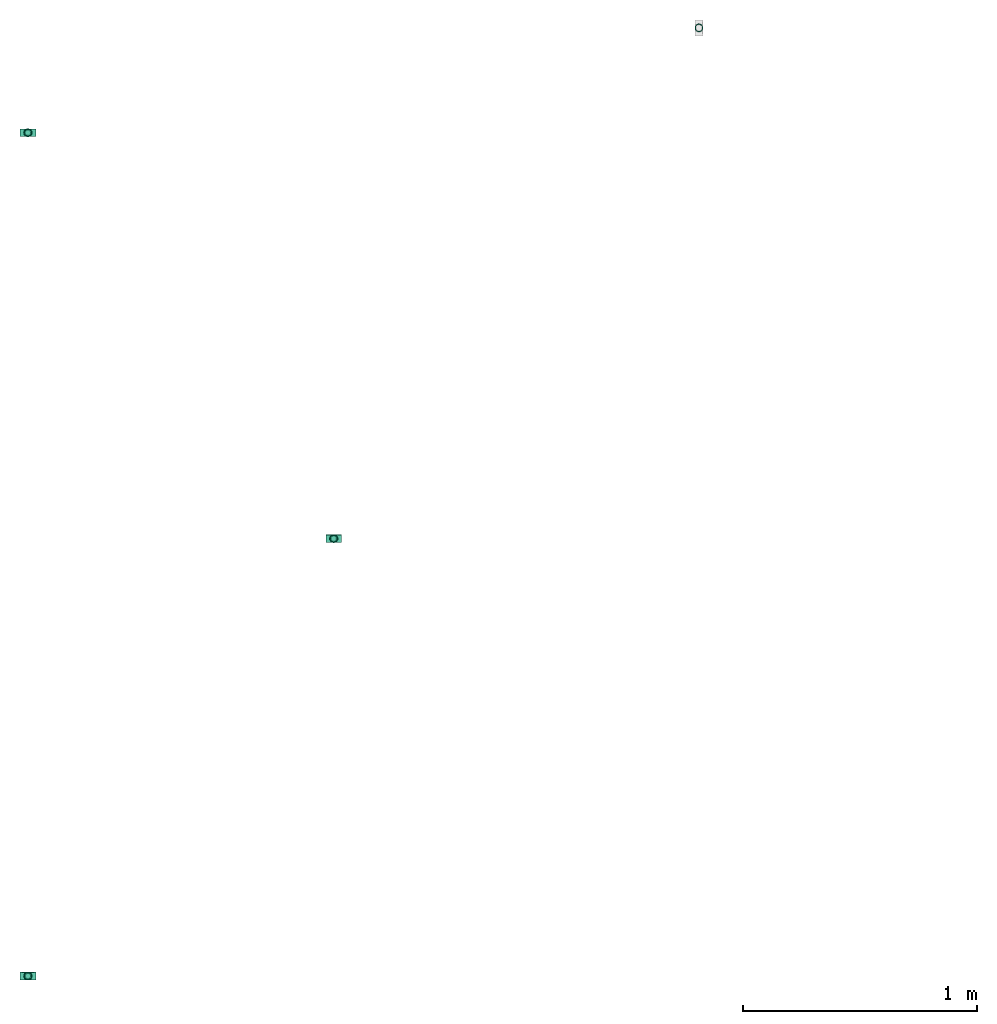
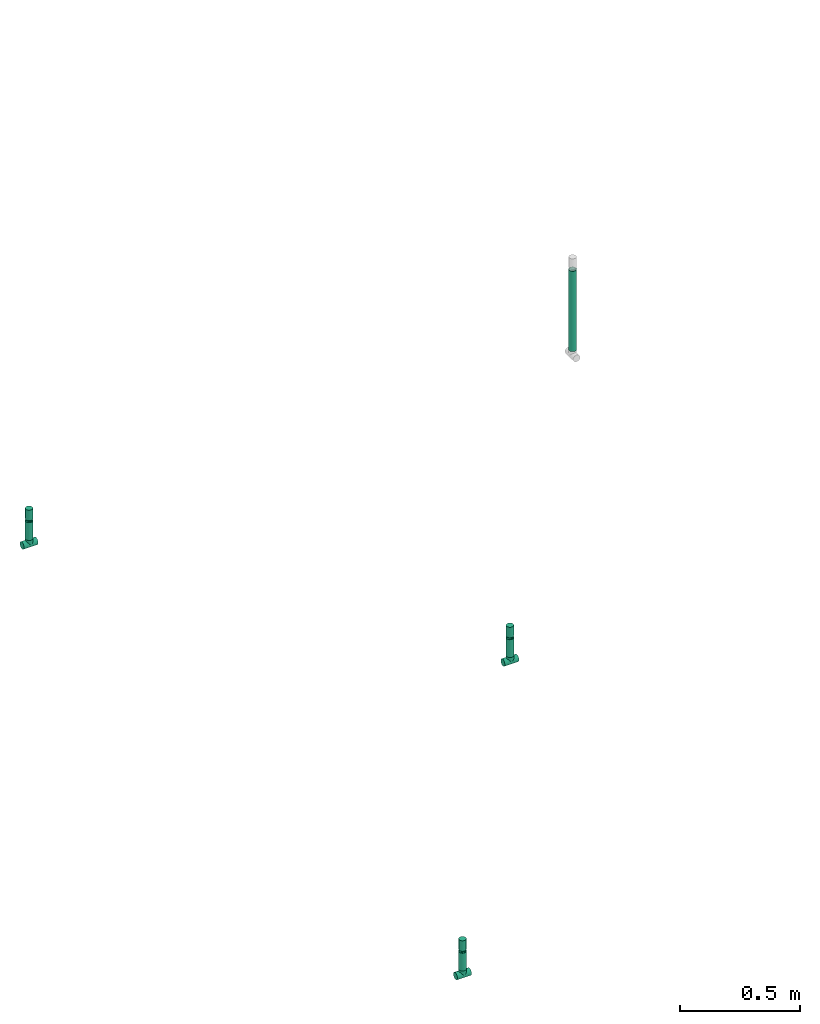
# One storey, part 1 of 2: 6 flow fittings, 4 flow segments, 3 flow terminals.
"""IFC2X3 building model written with IfcOpenShell, lengths in millimetres."""

from ifc_helpers import new_model, entity, si_unit, converted_unit, derived_unit, direction, frame, origin_with_axes, origin_2d_with_axis, place, context, subcontext, project, spatial, hollow_circle, extrude, open_shell, surface_model, source, transform, mapped, type_object, element, save


model = new_model("IFC2X3")

# Units and contexts
model_context = context("Model", 3, precision=0.01, world=frame((0.0, 4.29681676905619e-09, 0.0)), true_north=direction((4.01073788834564e-13, 1.0)))
plan_context = context("Plan", 3, precision=0.01, world=frame((0.0, 4.29681676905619e-09, 0.0)), true_north=direction((4.01073788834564e-13, 1.0)))
body_context = subcontext(model_context, "Body", "Model", "MODEL_VIEW")
ifc_project = project(units=[converted_unit("PLANEANGLEUNIT", "DEGREE", entity("IfcPositiveLengthMeasure", 0.0174532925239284), si_unit("PLANEANGLEUNIT", "RADIAN"), dimensions=[0, 0, 0, 0, 0, 0, 0]), si_unit("AREAUNIT", "SQUARE_METRE"), si_unit("LENGTHUNIT", "METRE", prefix="MILLI"), si_unit("MASSUNIT", "GRAM", prefix="KILO"), si_unit("POWERUNIT", "WATT"), si_unit("PRESSUREUNIT", "PASCAL", prefix="KILO"), si_unit("FORCEUNIT", "NEWTON", prefix="KILO"), si_unit("ELECTRICVOLTAGEUNIT", "VOLT"), si_unit("ELECTRICCURRENTUNIT", "AMPERE"), si_unit("THERMODYNAMICTEMPERATUREUNIT", "DEGREE_CELSIUS"), si_unit("TIMEUNIT", "SECOND"), si_unit("VOLUMEUNIT", "CUBIC_METRE"), derived_unit("LINEARVELOCITYUNIT", [(si_unit("LENGTHUNIT", "METRE"), 1), (si_unit("TIMEUNIT", "SECOND"), -1)]), derived_unit("VOLUMETRICFLOWRATEUNIT", [(si_unit("VOLUMEUNIT", "CUBIC_METRE"), 1), (si_unit("TIMEUNIT", "SECOND"), -1)]), derived_unit("THERMALTRANSMITTANCEUNIT", [(si_unit("POWERUNIT", "WATT"), 1), (si_unit("THERMODYNAMICTEMPERATUREUNIT", "KELVIN"), -1), (si_unit("AREAUNIT", "SQUARE_METRE"), -1)]), derived_unit("SOUNDPRESSUREUNIT", [(si_unit("PRESSUREUNIT", "PASCAL"), 1)])], contexts=[model_context, plan_context])

# Site, building, storey
site_placement = place(None, frame((0.0, -4.29681676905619e-09, 0.0), z_axis=(0.0, 0.0, 1.0), x_axis=(1.0, 0.0, 0.0)))
site = spatial("IfcSite", under=ifc_project, at=site_placement, CompositionType="ELEMENT")
building_placement = place(site_placement, frame((0.0, 4.29681676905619e-09, 0.0), z_axis=(0.0, 0.0, 1.0), x_axis=(1.0, 0.0, 0.0)))
building = spatial("IfcBuilding", under=site, at=building_placement, Name="mc-building", CompositionType="ELEMENT")
storey_placement = place(building_placement, frame((0.0, 0.0, 205200.0), z_axis=(0.0, 0.0, 1.0), x_axis=(1.0, 0.0, 0.0)))
storey = spatial("IfcBuildingStorey", under=building, at=storey_placement, Name="Nivå D + 1,2 m", CompositionType="ELEMENT", Elevation=205200.0)

# Flow fittings
pipe_fitting_type_1 = type_object("IfcPipeFittingType", Name="magi_pipe_fe_tee_centric_90_NOR", PredefinedType="JUNCTION")
shared_shape_1 = source(origin_with_axes(), body_context, "Body", "SurfaceModel", [
    surface_model("IfcShellBasedSurfaceModel", [(-33.8, 4.37404, -16.32415), (-33.8, 0.0, -16.9), (-33.8, 16.32415, -4.37404), (-33.8, 8.45, -14.63583), (-33.8, 11.9501, -11.9501), (-33.8, 14.63583, -8.45), (-33.8, -16.9, 0.0), (-33.8, -11.9501, -11.9501), (-33.8, -14.63583, -8.45), (-33.8, -8.45, -14.63583), (-33.8, -4.37404, -16.32415), (-33.8, -16.32415, -4.37404), (-33.8, 14.63583, 8.45), (-33.8, 16.32415, 4.37404), (-33.8, -8.45, 14.63583), (-33.8, 8.45, 14.63583), (-33.8, 11.9501, 11.9501), (-33.8, 4.37404, 16.32415), (-33.8, 0.0, 16.9), (-33.8, -11.9501, 11.9501), (-33.8, -14.63583, 8.45), (-33.8, -16.32415, 4.37404), (-33.8, -4.37404, 16.32415), (-33.8, 16.9, 0.0), (33.8, 4.37404, -16.32415), (33.8, -16.9, 0.0), (33.8, 0.0, -16.9), (33.8, 14.63583, -8.45), (33.8, 8.45, -14.63583), (33.8, 16.32415, -4.37404), (33.8, 11.9501, -11.9501), (33.8, -16.32415, 4.37404), (33.8, -8.45, -14.63583), (33.8, -4.37404, -16.32415), (33.8, -11.9501, -11.9501), (33.8, -14.63583, -8.45), (33.8, -16.32415, -4.37404), (33.8, 16.32415, 4.37404), (33.8, 8.45, 14.63583), (33.8, 14.63583, 8.45), (33.8, 11.9501, 11.9501), (33.8, -8.45, 14.63583), (33.8, 4.37404, 16.32415), (33.8, -14.63583, 8.45), (33.8, -11.9501, 11.9501), (33.8, 0.0, 16.9), (33.8, -4.37404, 16.32415), (33.8, 16.9, 0.0), (16.28698, -16.28698, 4.51047), (16.9, -16.9, 0.0), (14.62704, -14.62704, 8.4652), (9.47213, -9.47213, 13.99602), (12.26343, -12.26343, 11.62834), (-16.9, -16.9, 0.0), (-16.28698, -16.28698, 4.51047), (-14.62704, -14.62704, 8.4652), (-12.26343, -12.26343, 11.62834), (-9.47213, -9.47213, 13.99602), (-6.42894, -6.42894, 15.62942), (6.42894, -6.42894, 15.62942), (3.24522, -3.24522, 16.58549), (0.0, 0.0, 16.9), (-3.24522, -3.24522, 16.58549), (3.24522, -3.24522, -16.58549), (0.0, 0.0, -16.9), (-3.24522, -3.24522, -16.58549), (-6.42894, -6.42894, -15.62942), (6.42894, -6.42894, -15.62942), (9.47213, -9.47213, -13.99602), (12.26343, -12.26343, -11.62834), (14.62704, -14.62704, -8.4652), (16.28698, -16.28698, -4.51047), (-9.47213, -9.47213, -13.99602), (-12.26343, -12.26343, -11.62834), (-16.28698, -16.28698, -4.51047), (-14.62704, -14.62704, -8.4652), (4.37404, -25.35, -16.32415), (-16.9, -25.35, 0.0), (0.0, -25.35, -16.9), (14.63583, -25.35, -8.45), (8.45, -25.35, -14.63583), (16.32415, -25.35, -4.37404), (11.9501, -25.35, -11.9501), (-11.9501, -25.35, -11.9501), (-8.45, -25.35, -14.63583), (-4.37404, -25.35, -16.32415), (-14.63583, -25.35, -8.45), (-16.32415, -25.35, -4.37404), (16.9, -25.35, 0.0), (8.45, -25.35, 14.63583), (16.32415, -25.35, 4.37404), (14.63583, -25.35, 8.45), (-8.45, -25.35, 14.63583), (11.9501, -25.35, 11.9501), (4.37404, -25.35, 16.32415), (-16.32415, -25.35, 4.37404), (-11.9501, -25.35, 11.9501), (-14.63583, -25.35, 8.45), (0.0, -25.35, 16.9), (-4.37404, -25.35, 16.32415)], [open_shell([[[0, 1, 2]], [[3, 0, 4]], [[0, 2, 5]], [[4, 0, 5]], [[6, 2, 1]], [[7, 8, 9]], [[1, 10, 9]], [[11, 6, 8]], [[1, 9, 8]], [[1, 8, 6]], [[6, 12, 2]], [[12, 13, 2]], [[14, 12, 6]], [[12, 14, 15]], [[16, 12, 15]], [[17, 15, 18]], [[19, 14, 20]], [[21, 20, 14]], [[22, 18, 14]], [[14, 6, 21]], [[14, 18, 15]], [[23, 2, 13]], [[24, 25, 26]], [[27, 24, 28]], [[27, 29, 24]], [[27, 28, 30]], [[31, 25, 24]], [[26, 32, 33]], [[26, 34, 32]], [[35, 25, 36]], [[35, 34, 26]], [[25, 35, 26]], [[24, 29, 31]], [[29, 37, 38]], [[38, 37, 39]], [[38, 31, 29]], [[38, 39, 40]], [[41, 38, 42]], [[43, 41, 44]], [[41, 43, 31]], [[41, 45, 46]], [[41, 31, 38]], [[42, 45, 41]], [[29, 47, 37]], [[31, 43, 48]], [[25, 31, 49]], [[49, 31, 48]], [[43, 50, 48]], [[44, 41, 51]], [[50, 43, 52]], [[51, 52, 44]], [[52, 43, 44]], [[53, 54, 21]], [[53, 21, 6]], [[21, 54, 20]], [[54, 55, 20]], [[56, 57, 19]], [[19, 20, 56]], [[19, 57, 14]], [[56, 20, 55]], [[14, 57, 58]], [[51, 41, 59]], [[60, 45, 61]], [[59, 46, 60]], [[46, 59, 41]], [[60, 46, 45]], [[61, 45, 42]], [[39, 37, 13]], [[16, 38, 40]], [[12, 40, 39]], [[42, 38, 15]], [[23, 37, 47]], [[62, 61, 18]], [[62, 22, 58]], [[22, 62, 18]], [[58, 22, 14]], [[61, 17, 18]], [[42, 17, 61]], [[15, 17, 42]], [[15, 38, 16]], [[12, 16, 40]], [[13, 12, 39]], [[37, 23, 13]], [[5, 27, 30]], [[23, 47, 29]], [[30, 28, 3]], [[27, 2, 29]], [[26, 33, 63]], [[26, 64, 24]], [[64, 26, 63]], [[28, 24, 0]], [[64, 0, 24]], [[4, 30, 3]], [[2, 27, 5]], [[5, 30, 4]], [[2, 23, 29]], [[65, 66, 10]], [[1, 0, 64]], [[1, 65, 10]], [[66, 9, 10]], [[0, 3, 28]], [[1, 64, 65]], [[63, 33, 67]], [[32, 34, 68]], [[69, 68, 34]], [[35, 70, 69]], [[69, 34, 35]], [[32, 68, 67]], [[36, 25, 49]], [[36, 71, 35]], [[71, 36, 49]], [[35, 71, 70]], [[72, 9, 66]], [[72, 7, 9]], [[7, 72, 73]], [[7, 73, 8]], [[74, 53, 11]], [[75, 74, 8]], [[74, 11, 8]], [[11, 53, 6]], [[75, 8, 73]], [[32, 67, 33]], [[76, 77, 78]], [[79, 76, 80]], [[79, 81, 76]], [[79, 80, 82]], [[77, 76, 81]], [[78, 83, 84]], [[84, 85, 78]], [[86, 77, 87]], [[83, 78, 86]], [[77, 86, 78]], [[81, 88, 77]], [[89, 88, 90]], [[89, 90, 91]], [[92, 77, 89]], [[89, 91, 93]], [[92, 89, 94]], [[95, 96, 97]], [[96, 95, 92]], [[92, 98, 99]], [[95, 77, 92]], [[94, 98, 92]], [[89, 77, 88]], [[77, 95, 53]], [[54, 53, 95]], [[97, 96, 56]], [[96, 92, 57]], [[95, 97, 54]], [[58, 92, 99]], [[55, 54, 97]], [[56, 55, 97]], [[58, 57, 92]], [[98, 61, 62]], [[58, 99, 62]], [[56, 96, 57]], [[62, 99, 98]], [[94, 60, 98]], [[89, 59, 94]], [[91, 90, 48]], [[52, 93, 91]], [[93, 51, 89]], [[49, 90, 88]], [[59, 60, 94]], [[51, 59, 89]], [[49, 48, 90]], [[50, 52, 91]], [[48, 50, 91]], [[51, 93, 52]], [[98, 60, 61]], [[88, 81, 49]], [[71, 49, 81]], [[79, 82, 69]], [[82, 80, 68]], [[81, 79, 71]], [[67, 80, 76]], [[70, 71, 79]], [[69, 70, 79]], [[67, 68, 80]], [[78, 64, 63]], [[67, 76, 63]], [[69, 82, 68]], [[63, 76, 78]], [[85, 65, 78]], [[84, 66, 85]], [[86, 87, 74]], [[86, 73, 83]], [[72, 84, 83]], [[53, 87, 77]], [[66, 65, 85]], [[72, 66, 84]], [[53, 74, 87]], [[75, 73, 86]], [[74, 75, 86]], [[72, 83, 73]], [[78, 65, 64]]])]),
])
for number, where, z_axis, x_axis, name in (
    (1, (596108.0663, 400450.01942, 1580.0), (0.0, -1.0, 0.0), (-1.0, 0.0, 0.0), "magi_pipe_fe_tee_centric_90_NOR"),
    (2, (596108.0663, 404050.01942, 1580.0), (0.0, -1.0, 0.0), (-1.0, 0.0, 0.0), "magi_pipe_fe_tee_centric_90_NOR"),
    (3, (597413.58958, 402317.53152, 1580.0), (0.0, 1.0, 0.0), (1.0, 0.0, 0.0), "magi_pipe_fe_tee_centric_90_NOR"),
):
    element("IfcFlowFitting", number, at=place(storey_placement, frame(where, z_axis=z_axis, x_axis=x_axis)), inside=storey, type_object=pipe_fitting_type_1, Name=name, context=body_context, shape_type="MappedRepresentation", body=[
        mapped(shared_shape_1, transform((0.0, 0.0, 0.0), scale=1.0)),
    ])
pipe_fitting_type_2 = type_object("IfcPipeFittingType", Name="magi_pipe_fe_reducer_centric_short_NOR", PredefinedType="TRANSITION")
shared_shape_2 = source(origin_with_axes(), body_context, "Body", "SurfaceModel", [
    surface_model("IfcShellBasedSurfaceModel", [(-2.0, -7.56604, -7.56604), (-2.0, -10.33541, -2.76936), (-2.0, -5.35, -9.26647), (-2.0, 5.35, -9.26647), (-2.0, 10.33541, -2.76936), (-2.0, 7.56604, -7.56604), (12.4, 11.9501, 11.9501), (12.4, 0.0, 16.9), (12.4, 11.9501, -11.9501), (12.4, 16.9, 0.0), (0.0, -10.7, 0.0), (0.0, -5.35, 9.26647), (0.0, -5.35, -9.26647), (0.0, 10.7, 0.0), (12.4, 15.66253, -2.98753), (12.4, 8.96258, -13.18758), (0.0, 6.6875, -6.94985), (12.4, -15.66253, -2.98753), (12.4, -16.9, 0.0), (12.4, 5.97505, -14.42505), (0.0, 5.35, -9.26647), (12.4, 14.42505, -5.97505), (0.0, 8.025, -4.63324), (0.0, 9.3625, -2.31662), (0.0, -9.3625, -2.31662), (0.0, -8.025, -4.63324), (12.4, -14.42505, -5.97505), (12.4, 13.18758, -8.96258), (12.4, -13.18758, -8.96258), (12.4, -11.9501, -11.9501), (0.0, -6.6875, -6.94985), (12.4, -8.96258, -13.18758), (12.4, -5.97505, -14.42505), (12.4, -15.66253, 2.98753), (12.4, -8.96258, 13.18758), (0.0, -6.6875, 6.94985), (12.4, -11.9501, 11.9501), (12.4, 15.66253, 2.98753), (12.4, -5.97505, 14.42505), (12.4, -14.42505, 5.97505), (0.0, -8.025, 4.63324), (0.0, -9.3625, 2.31662), (0.0, 9.3625, 2.31662), (0.0, 8.025, 4.63324), (12.4, 14.42505, 5.97505), (12.4, -13.18758, 8.96258), (12.4, 13.18758, 8.96258), (0.0, 6.6875, 6.94985), (12.4, 8.96258, 13.18758), (0.0, 5.35, 9.26647), (12.4, 5.97505, 14.42505), (14.4, 4.37404, -16.32415), (14.4, 8.45, -14.63583), (14.4, 11.9501, -11.9501), (14.4, -8.45, -14.63583), (14.4, 16.32415, -4.37404), (14.4, 16.32415, 4.37404), (14.4, 14.63583, -8.45), (14.4, 0.0, -16.9), (14.4, -4.37404, -16.32415), (14.4, -11.9501, -11.9501), (14.4, -16.32415, -4.37404), (14.4, -14.63583, -8.45), (14.4, -16.32415, 4.37404), (14.4, 16.9, 0.0), (14.4, 14.63583, 8.45), (14.4, 11.9501, 11.9501), (14.4, 4.37404, 16.32415), (14.4, 8.45, 14.63583), (14.4, 0.0, 16.9), (14.4, -14.63583, 8.45), (14.4, -16.9, 0.0), (14.4, -8.45, 14.63583), (14.4, -11.9501, 11.9501), (14.4, -4.37404, 16.32415), (12.4, 4.37404, 16.32415), (12.4, -14.63583, 8.45), (12.4, 16.32415, 4.37404), (12.4, 8.45, 14.63583), (12.4, 14.63583, 8.45), (12.4, -8.45, 14.63583), (12.4, -4.37404, 16.32415), (12.4, -16.32415, 4.37404), (12.4, -16.32415, -4.37404), (12.4, -8.45, -14.63583), (12.4, 16.32415, -4.37404), (12.4, 14.63583, -8.45), (12.4, 8.45, -14.63583), (12.4, 4.37404, -16.32415), (12.4, 0.0, -16.9), (12.4, -14.63583, -8.45), (12.4, -4.37404, -16.32415), (-2.0, 2.76936, 10.33541), (-2.0, 0.0, 10.7), (-2.0, 5.35, 9.26647), (-2.0, 7.56604, 7.56604), (-2.0, 9.26647, 5.35), (-2.0, 10.33541, 2.76936), (-2.0, -10.33541, 2.76936), (-2.0, -2.76936, 10.33541), (-2.0, -7.56604, 7.56604), (-2.0, -5.35, 9.26647), (-2.0, -9.26647, 5.35), (-2.0, -10.7, 0.0), (-2.0, 9.26647, -5.35), (-2.0, 2.76936, -10.33541), (-2.0, -9.26647, -5.35), (-2.0, 0.0, -10.7), (-2.0, -2.76936, -10.33541), (-2.0, 10.7, 0.0), (0.0, 0.0, -10.7), (0.0, 2.76936, -10.33541), (0.0, 10.33541, -2.76936), (0.0, 7.56604, -7.56604), (0.0, -10.33541, -2.76936), (0.0, 9.26647, -5.35), (0.0, 0.0, 10.7), (0.0, -2.76936, -10.33541), (0.0, -7.56604, -7.56604), (0.0, -9.26647, -5.35), (0.0, 10.33541, 2.76936), (0.0, 9.26647, 5.35), (0.0, 7.56604, 7.56604), (0.0, 2.76936, 10.33541), (0.0, -7.56604, 7.56604), (0.0, -10.33541, 2.76936), (0.0, -9.26647, 5.35), (0.0, -2.76936, 10.33541), (0.0, 2.675, -9.26647), (0.0, -2.675, -9.26647), (12.4, 2.98753, -15.66253), (0.0, 0.0, -9.26647), (12.4, -2.98753, -15.66253), (0.0, -2.675, 9.26647), (0.0, 2.675, 9.26647), (12.4, -2.98753, 15.66253), (0.0, 0.0, 9.26647), (12.4, 2.98753, 15.66253)], [open_shell([[[0, 1, 2]], [[3, 4, 5]], [[6, 7, 8]], [[8, 9, 6]], [[10, 11, 12]], [[13, 9, 14]], [[15, 16, 8]], [[17, 18, 10]], [[15, 19, 20]], [[21, 22, 23]], [[24, 25, 26]], [[22, 21, 27]], [[28, 26, 25]], [[29, 30, 31]], [[12, 32, 31]], [[10, 18, 33]], [[34, 35, 36]], [[37, 9, 13]], [[34, 38, 11]], [[39, 40, 41]], [[42, 43, 44]], [[40, 39, 45]], [[46, 44, 43]], [[6, 47, 48]], [[49, 50, 48]], [[51, 52, 53]], [[54, 51, 53]], [[53, 55, 56]], [[55, 53, 57]], [[53, 56, 54]], [[58, 54, 59]], [[58, 51, 54]], [[60, 61, 62]], [[61, 60, 54]], [[54, 63, 61]], [[56, 55, 64]], [[56, 65, 66]], [[56, 66, 67]], [[67, 63, 54]], [[67, 66, 68]], [[63, 67, 69]], [[69, 70, 63]], [[71, 61, 63]], [[70, 72, 73]], [[70, 69, 72]], [[72, 69, 74]], [[54, 56, 67]], [[75, 76, 7]], [[77, 75, 78]], [[6, 79, 77]], [[6, 77, 78]], [[76, 75, 77]], [[80, 76, 36]], [[80, 81, 7]], [[7, 76, 80]], [[82, 76, 77]], [[82, 83, 18]], [[82, 77, 84]], [[77, 85, 8]], [[8, 85, 86]], [[8, 87, 88]], [[84, 77, 8]], [[88, 89, 8]], [[83, 29, 90]], [[29, 83, 84]], [[84, 89, 91]], [[83, 82, 84]], [[8, 89, 84]], [[85, 77, 9]], [[83, 61, 18]], [[90, 62, 83]], [[54, 29, 84]], [[90, 29, 60]], [[59, 84, 91]], [[83, 62, 61]], [[61, 71, 18]], [[59, 54, 84]], [[60, 29, 54]], [[60, 62, 90]], [[58, 59, 91]], [[91, 89, 58]], [[88, 51, 89]], [[87, 52, 88]], [[57, 8, 86]], [[87, 8, 53]], [[55, 86, 85]], [[87, 53, 52]], [[52, 51, 88]], [[64, 55, 85]], [[57, 86, 55]], [[57, 53, 8]], [[9, 64, 85]], [[89, 51, 58]], [[77, 56, 9]], [[79, 65, 77]], [[68, 6, 78]], [[79, 6, 66]], [[67, 78, 75]], [[77, 65, 56]], [[56, 64, 9]], [[67, 68, 78]], [[66, 6, 68]], [[66, 65, 79]], [[69, 67, 75]], [[75, 7, 69]], [[81, 74, 7]], [[80, 72, 81]], [[70, 36, 76]], [[80, 36, 73]], [[63, 76, 82]], [[80, 73, 72]], [[72, 74, 81]], [[71, 63, 82]], [[70, 76, 63]], [[70, 73, 36]], [[18, 71, 82]], [[7, 74, 69]], [[92, 1, 93]], [[94, 1, 92]], [[95, 96, 97]], [[95, 97, 94]], [[98, 93, 1]], [[99, 100, 101]], [[99, 93, 100]], [[100, 98, 102]], [[93, 98, 100]], [[98, 1, 103]], [[94, 97, 1]], [[1, 97, 4]], [[5, 4, 104]], [[4, 3, 1]], [[105, 1, 3]], [[1, 0, 106]], [[2, 107, 108]], [[2, 1, 105]], [[105, 107, 2]], [[4, 97, 109]], [[20, 110, 111]], [[112, 20, 113]], [[114, 20, 112]], [[112, 113, 115]], [[116, 114, 112]], [[110, 12, 117]], [[110, 20, 12]], [[118, 114, 119]], [[114, 118, 12]], [[20, 114, 12]], [[112, 13, 120]], [[120, 121, 122]], [[120, 122, 123]], [[116, 112, 123]], [[123, 122, 49]], [[116, 124, 114]], [[125, 124, 126]], [[10, 114, 125]], [[124, 127, 11]], [[125, 114, 124]], [[127, 124, 116]], [[123, 112, 120]], [[1, 114, 103]], [[106, 119, 1]], [[12, 0, 2]], [[106, 0, 118]], [[117, 2, 108]], [[1, 119, 114]], [[114, 10, 103]], [[117, 12, 2]], [[118, 0, 12]], [[118, 119, 106]], [[110, 117, 108]], [[108, 107, 110]], [[105, 111, 107]], [[3, 20, 105]], [[115, 5, 104]], [[3, 5, 113]], [[112, 104, 4]], [[3, 113, 20]], [[20, 111, 105]], [[13, 112, 4]], [[115, 104, 112]], [[115, 113, 5]], [[109, 13, 4]], [[107, 111, 110]], [[97, 120, 109]], [[96, 121, 97]], [[49, 95, 94]], [[96, 95, 122]], [[123, 94, 92]], [[97, 121, 120]], [[120, 13, 109]], [[123, 49, 94]], [[122, 95, 49]], [[122, 121, 96]], [[116, 123, 92]], [[92, 93, 116]], [[99, 127, 93]], [[101, 11, 99]], [[126, 100, 102]], [[101, 100, 124]], [[125, 102, 98]], [[101, 124, 11]], [[11, 127, 99]], [[10, 125, 98]], [[126, 102, 125]], [[126, 124, 100]], [[103, 10, 98]], [[93, 127, 116]], [[18, 7, 36]], [[18, 29, 8]], [[89, 8, 29]], [[18, 8, 7]], [[13, 11, 49]], [[13, 20, 12]], [[13, 12, 11]], [[24, 26, 17]], [[10, 24, 17]], [[16, 15, 20]], [[30, 12, 31]], [[23, 14, 21]], [[19, 128, 20]], [[27, 8, 16]], [[32, 12, 129]], [[30, 28, 25]], [[130, 131, 128]], [[129, 132, 32]], [[16, 22, 27]], [[13, 14, 23]], [[128, 19, 130]], [[130, 89, 131]], [[131, 132, 129]], [[89, 132, 131]], [[28, 30, 29]], [[42, 44, 37]], [[13, 42, 37]], [[35, 34, 11]], [[47, 49, 48]], [[41, 33, 39]], [[38, 133, 11]], [[45, 36, 35]], [[50, 49, 134]], [[47, 46, 43]], [[135, 136, 133]], [[134, 137, 50]], [[35, 40, 45]], [[10, 33, 41]], [[133, 38, 135]], [[135, 7, 136]], [[136, 137, 134]], [[7, 137, 136]], [[46, 47, 6]]])]),
])
for number, where, z_axis, x_axis, name in (
    (4, (596108.0663, 400450.01942, 1708.04800000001), (0.0, -1.0, 0.0), (0.0, 0.0, -1.0), "magi_pipe_fe_reducer_centric_short_NOR"),
    (5, (596108.0663, 404050.01942, 1708.04800000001), (0.0, -1.0, 0.0), (0.0, 0.0, -1.0), "magi_pipe_fe_reducer_centric_short_NOR"),
    (6, (597413.58958, 402317.53152, 1708.04800000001), (0.0, -1.0, 0.0), (0.0, 0.0, -1.0), "magi_pipe_fe_reducer_centric_short_NOR"),
):
    element("IfcFlowFitting", number, at=place(storey_placement, frame(where, z_axis=z_axis, x_axis=x_axis)), inside=storey, type_object=pipe_fitting_type_2, Name=name, context=body_context, shape_type="MappedRepresentation", body=[
        mapped(shared_shape_2, transform((0.0, 0.0, 0.0), scale=1.0)),
    ])

# Flow segments
pipe_segment_type = type_object("IfcPipeSegmentType", Name="Stålrør normaltykke", PredefinedType="RIGIDSEGMENT")
shared_shape_3 = source(origin_with_axes(), body_context, "Body", "SweptSolid", [
    extrude(hollow_circle(Radius=16.9, WallThickness=2.0, at=origin_2d_with_axis()), frame((0.0, 0.0, 0.0), z_axis=(1.0, 0.0, 0.0), x_axis=(0.0, 1.0, 0.0)), (0.0, 0.0, 1.0), 90.3),
])
for number, where, z_axis, x_axis in (
    (7, (596108.0663, 400450.01942, 1605.35000000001), (0.0, -1.0, 0.0), (0.0, 0.0, 1.0)),
    (8, (596108.0663, 404050.01942, 1695.64799999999), (0.0, -1.0, 0.0), (0.0, 0.0, -1.0)),
    (9, (597413.58958, 402317.53152, 1695.64799999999), (0.0, -1.0, 0.0), (0.0, 0.0, -1.0)),
):
    element("IfcFlowSegment", number, at=place(storey_placement, frame(where, z_axis=z_axis, x_axis=x_axis)), inside=storey, type_object=pipe_segment_type, Name="Stålrør normaltykke", context=body_context, shape_type="MappedRepresentation", body=[
        mapped(shared_shape_3, transform((0.0, 0.0, 0.0), scale=1.0)),
    ])
shared_shape_4 = source(origin_with_axes(), body_context, "Body", "SweptSolid", [
    extrude(hollow_circle(Radius=16.9, WallThickness=2.0, at=origin_2d_with_axis()), frame((0.0, 0.0, 0.0), z_axis=(1.0, 0.0, 0.0), x_axis=(0.0, 1.0, 0.0)), (0.0, 0.0, 1.0), 407.2),
])
flow_segment_placement = place(storey_placement, frame((598972.72783, 404497.47697, 1695.64799999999), z_axis=(0.0, -1.0, 0.0), x_axis=(0.0, 0.0, -1.0)))
element("IfcFlowSegment", 10, at=flow_segment_placement, inside=storey, type_object=pipe_segment_type, Name="Stålrør normaltykke", context=body_context, shape_type="MappedRepresentation", body=[
    mapped(shared_shape_4, transform((0.0, 0.0, 0.0), scale=1.0)),
])

# Flow terminals
fire_suppression_terminal_type = type_object("IfcFireSuppressionTerminalType", Name="SP-15-K80-68DGR-STD-STÅENDE", PredefinedType="NOTDEFINED")
shared_shape_5 = source(origin_with_axes(), body_context, "Body", "SurfaceModel", [
    surface_model("IfcShellBasedSurfaceModel", [(4.1411, -15.45481, 53.0), (8.0, -13.85641, 53.0), (11.31371, -11.31371, 53.0), (-8.0, -13.85641, 53.0), (15.45481, -4.1411, 53.0), (16.0, 0.0, 53.0), (13.85641, -8.0, 53.0), (0.0, -16.0, 53.0), (-4.1411, -15.45481, 53.0), (-13.85641, -8.0, 53.0), (-11.31371, -11.31371, 53.0), (-15.45481, -4.1411, 53.0), (15.45481, 4.1411, 53.0), (13.85641, 8.0, 53.0), (11.31371, 11.31371, 53.0), (-4.1411, 15.45481, 53.0), (8.0, 13.85641, 53.0), (4.1411, 15.45481, 53.0), (0.0, 16.0, 53.0), (-13.85641, 8.0, 53.0), (-15.45481, 4.1411, 53.0), (-16.0, 0.0, 53.0), (-11.31371, 11.31371, 53.0), (-8.0, 13.85641, 53.0), (0.0, 16.0, 0.0), (4.1411, 15.45481, 0.0), (8.0, 13.85641, 0.0), (-4.1411, 15.45481, 0.0), (11.31371, 11.31371, 0.0), (13.85641, 8.0, 0.0), (15.45481, 4.1411, 0.0), (-15.45481, -4.1411, 0.0), (-11.31371, 11.31371, 0.0), (-8.0, 13.85641, 0.0), (-13.85641, 8.0, 0.0), (-15.45481, 4.1411, 0.0), (-16.0, 0.0, 0.0), (4.1411, -15.45481, 0.0), (16.0, 0.0, 0.0), (15.45481, -4.1411, 0.0), (13.85641, -8.0, 0.0), (11.31371, -11.31371, 0.0), (8.0, -13.85641, 0.0), (-8.0, -13.85641, 0.0), (-13.85641, -8.0, 0.0), (-11.31371, -11.31371, 0.0), (0.0, -16.0, 0.0), (-4.1411, -15.45481, 0.0)], [open_shell([[[0, 1, 2]], [[3, 0, 2]], [[4, 5, 2]], [[4, 2, 6]], [[3, 2, 5]], [[7, 3, 8]], [[7, 0, 3]], [[3, 9, 10]], [[9, 3, 11]], [[5, 11, 3]], [[5, 12, 11]], [[12, 13, 14]], [[15, 12, 14]], [[16, 17, 18]], [[14, 16, 15]], [[18, 15, 16]], [[11, 19, 20]], [[21, 11, 20]], [[22, 15, 23]], [[15, 22, 19]], [[19, 11, 15]], [[11, 12, 15]], [[24, 25, 26]], [[27, 24, 26]], [[28, 29, 30]], [[27, 26, 28]], [[27, 28, 31]], [[27, 32, 33]], [[32, 27, 34]], [[34, 31, 35]], [[31, 34, 27]], [[35, 31, 36]], [[28, 30, 31]], [[37, 38, 39]], [[37, 39, 40]], [[41, 42, 37]], [[41, 37, 40]], [[38, 37, 43]], [[44, 43, 45]], [[43, 44, 31]], [[43, 46, 47]], [[43, 31, 38]], [[37, 46, 43]], [[38, 31, 30]], [[11, 31, 44]], [[45, 9, 44]], [[3, 43, 47]], [[45, 43, 10]], [[8, 47, 46]], [[31, 21, 36]], [[31, 11, 21]], [[44, 9, 11]], [[45, 10, 9]], [[3, 10, 43]], [[47, 8, 3]], [[46, 7, 8]], [[0, 37, 42]], [[41, 1, 42]], [[6, 40, 39]], [[41, 40, 2]], [[4, 39, 38]], [[37, 0, 7]], [[42, 1, 0]], [[41, 2, 1]], [[40, 6, 2]], [[4, 6, 39]], [[38, 5, 4]], [[37, 7, 46]], [[12, 38, 30]], [[13, 30, 29]], [[16, 26, 25]], [[17, 25, 24]], [[30, 13, 12]], [[12, 5, 38]], [[28, 14, 13]], [[28, 26, 14]], [[14, 26, 16]], [[25, 17, 16]], [[28, 13, 29]], [[24, 18, 17]], [[15, 27, 33]], [[32, 23, 33]], [[19, 34, 35]], [[32, 34, 22]], [[20, 35, 36]], [[27, 15, 18]], [[33, 23, 15]], [[32, 22, 23]], [[34, 19, 22]], [[20, 19, 35]], [[36, 21, 20]], [[27, 18, 24]]])]),
])
for number, where, z_axis, x_axis in (
    (11, (596108.0663, 400450.01942, 1705.0), (0.0, 0.0, 1.0), (-1.0, 0.0, 0.0)),
    (12, (596108.0663, 404050.01942, 1705.0), (0.0, 0.0, 1.0), (-1.0, 0.0, 0.0)),
    (13, (597413.58958, 402317.53152, 1705.0), (0.0, 0.0, 1.0), (-1.0, 0.0, 0.0)),
):
    element("IfcFlowTerminal", number, at=place(storey_placement, frame(where, z_axis=z_axis, x_axis=x_axis)), inside=storey, type_object=fire_suppression_terminal_type, Name="SP-15-K80-68DGR-STD-STÅENDE", context=body_context, shape_type="MappedRepresentation", body=[
        mapped(shared_shape_5, transform((0.0, 0.0, 0.0), scale=1.0)),
    ])

save(model, "model.ifc")
